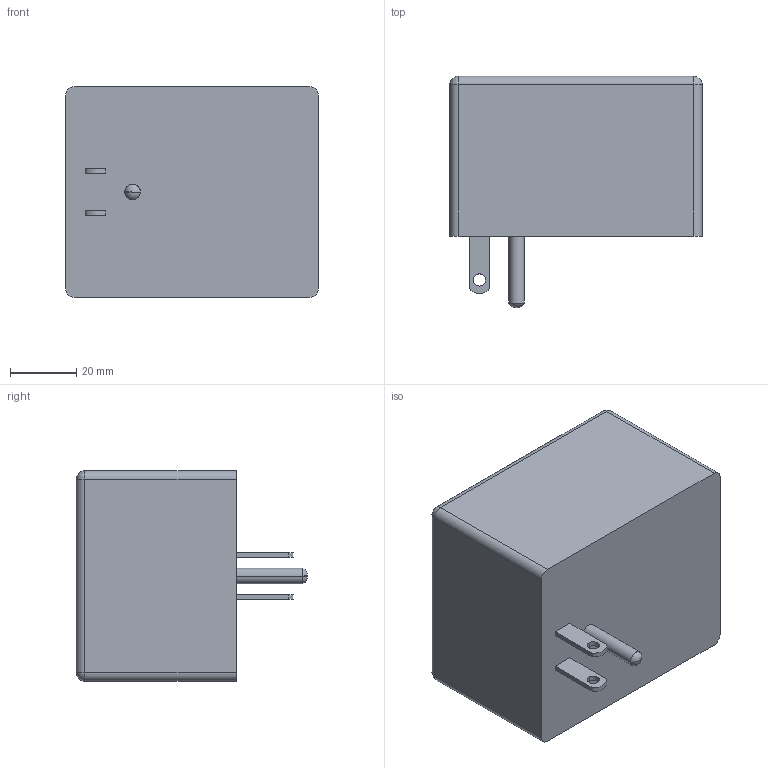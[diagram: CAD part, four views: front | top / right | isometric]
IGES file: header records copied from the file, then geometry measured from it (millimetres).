
Start section:  PTC IGES file: cu_power_supply_ps1.igs
Global section: file name: cu_power_supply_ps1.igs; native system: Pro/ENGINEER by Parametric Technology Corporation; preprocessor: 2006080; author: jpearson; organization: Unknown; date: 070817.111434; units: inch
Bounding box: 76.2 x 69.85 x 63.5 mm (x, y, z)
Surface area: 23444.2 mm2 (no closed solid volume)
Topology: 0 solids, 0 shells, 36 faces, 162 edges, 160 vertices
Faces by surface type: revolution 22, bspline 14
